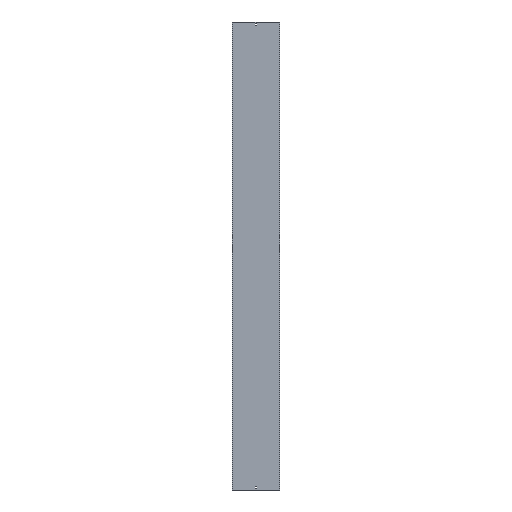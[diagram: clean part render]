
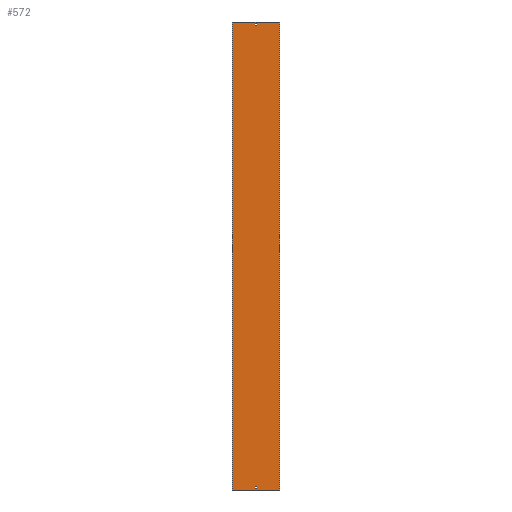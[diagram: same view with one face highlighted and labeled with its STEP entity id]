
A CAD part, front view. The second image highlights one B-rep face of the part: STEP entity #572.
In plain terms, the highlighted planar face has unit normal (0, -1, 0).
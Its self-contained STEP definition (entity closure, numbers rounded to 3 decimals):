
#1 = CARTESIAN_POINT ( 'NONE',  ( -150., -1.5, 1500. ) ) ;
#14 = VERTEX_POINT ( 'NONE', #323 ) ;
#15 = DIRECTION ( 'NONE',  ( -1., 0., 0. ) ) ;
#21 = EDGE_CURVE ( 'NONE', #504, #417, #67, .T. ) ;
#23 = ORIENTED_EDGE ( 'NONE', *, *, #320, .T. ) ;
#29 = CARTESIAN_POINT ( 'NONE',  ( -151.5, -1.5, 1479. ) ) ;
#34 = ORIENTED_EDGE ( 'NONE', *, *, #414, .F. ) ;
#44 = LINE ( 'NONE', #1, #475 ) ;
#54 = CARTESIAN_POINT ( 'NONE',  ( 150., -1.5, -1500. ) ) ;
#62 = VECTOR ( 'NONE', #15, 1000. ) ;
#67 = LINE ( 'NONE', #332, #153 ) ;
#68 = VERTEX_POINT ( 'NONE', #563 ) ;
#74 = VECTOR ( 'NONE', #339, 1000. ) ;
#79 = CARTESIAN_POINT ( 'NONE',  ( -150., -1.5, -1500. ) ) ;
#84 = VERTEX_POINT ( 'NONE', #247 ) ;
#87 = EDGE_CURVE ( 'NONE', #417, #233, #197, .T. ) ;
#90 = CARTESIAN_POINT ( 'NONE',  ( 3.25, -1.5, -1488. ) ) ;
#93 = LINE ( 'NONE', #230, #74 ) ;
#99 = CARTESIAN_POINT ( 'NONE',  ( -151.5, -1.5, 1500. ) ) ;
#100 = ORIENTED_EDGE ( 'NONE', *, *, #415, .T. ) ;
#104 = DIRECTION ( 'NONE',  ( 0., 0., -1. ) ) ;
#105 = AXIS2_PLACEMENT_3D ( 'NONE', #333, #381, #577 ) ;
#106 = EDGE_CURVE ( 'NONE', #68, #357, #433, .T. ) ;
#110 = EDGE_CURVE ( 'NONE', #434, #241, #338, .T. ) ;
#116 = VECTOR ( 'NONE', #104, 1000. ) ;
#120 = LINE ( 'NONE', #287, #499 ) ;
#132 = CARTESIAN_POINT ( 'NONE',  ( -151.5, -1.5, -1479. ) ) ;
#135 = VECTOR ( 'NONE', #556, 1000. ) ;
#137 = FACE_BOUND ( 'NONE', #182, .T. ) ;
#153 = VECTOR ( 'NONE', #250, 1000. ) ;
#156 = EDGE_LOOP ( 'NONE', ( #522, #23, #159, #100 ) ) ;
#159 = ORIENTED_EDGE ( 'NONE', *, *, #110, .T. ) ;
#173 = DIRECTION ( 'NONE',  ( 0., 0., 1. ) ) ;
#180 = ORIENTED_EDGE ( 'NONE', *, *, #21, .F. ) ;
#182 = EDGE_LOOP ( 'NONE', ( #34, #559, #421, #208 ) ) ;
#190 = DIRECTION ( 'NONE',  ( -1., 0., 0. ) ) ;
#196 = LINE ( 'NONE', #454, #135 ) ;
#197 = LINE ( 'NONE', #422, #62 ) ;
#208 = ORIENTED_EDGE ( 'NONE', *, *, #220, .F. ) ;
#216 = CARTESIAN_POINT ( 'NONE',  ( -3.25, -1.5, -1488. ) ) ;
#220 = EDGE_CURVE ( 'NONE', #232, #68, #432, .T. ) ;
#221 = FACE_OUTER_BOUND ( 'NONE', #508, .T. ) ;
#230 = CARTESIAN_POINT ( 'NONE',  ( -3.25, -1.5, 1500. ) ) ;
#231 = CARTESIAN_POINT ( 'NONE',  ( -151.5, -1.5, -1488. ) ) ;
#232 = VERTEX_POINT ( 'NONE', #480 ) ;
#233 = VERTEX_POINT ( 'NONE', #79 ) ;
#241 = VERTEX_POINT ( 'NONE', #524 ) ;
#247 = CARTESIAN_POINT ( 'NONE',  ( -3.25, -1.5, 1488. ) ) ;
#250 = DIRECTION ( 'NONE',  ( 0., 0., -1. ) ) ;
#254 = EDGE_CURVE ( 'NONE', #357, #84, #120, .T. ) ;
#271 = LINE ( 'NONE', #99, #462 ) ;
#287 = CARTESIAN_POINT ( 'NONE',  ( -151.5, -1.5, 1488. ) ) ;
#291 = CARTESIAN_POINT ( 'NONE',  ( 150., -1.5, 1500. ) ) ;
#296 = DIRECTION ( 'NONE',  ( 1., 0., 0. ) ) ;
#316 = ORIENTED_EDGE ( 'NONE', *, *, #459, .T. ) ;
#320 = EDGE_CURVE ( 'NONE', #550, #434, #93, .T. ) ;
#321 = VERTEX_POINT ( 'NONE', #90 ) ;
#323 = CARTESIAN_POINT ( 'NONE',  ( -150., -1.5, 1500. ) ) ;
#332 = CARTESIAN_POINT ( 'NONE',  ( 150., -1.5, 1500. ) ) ;
#333 = CARTESIAN_POINT ( 'NONE',  ( -151.5, -1.5, 1500. ) ) ;
#338 = LINE ( 'NONE', #132, #474 ) ;
#339 = DIRECTION ( 'NONE',  ( 0., 0., 1. ) ) ;
#349 = DIRECTION ( 'NONE',  ( -1., 0., 0. ) ) ;
#357 = VERTEX_POINT ( 'NONE', #553 ) ;
#361 = VECTOR ( 'NONE', #349, 1000. ) ;
#381 = DIRECTION ( 'NONE',  ( 0., -1., 0. ) ) ;
#382 = DIRECTION ( 'NONE',  ( 1., 0., 0. ) ) ;
#383 = PLANE ( 'NONE',  #105 ) ;
#386 = FACE_BOUND ( 'NONE', #156, .T. ) ;
#387 = VECTOR ( 'NONE', #382, 1000. ) ;
#402 = ORIENTED_EDGE ( 'NONE', *, *, #437, .T. ) ;
#414 = EDGE_CURVE ( 'NONE', #84, #232, #196, .T. ) ;
#415 = EDGE_CURVE ( 'NONE', #241, #321, #511, .T. ) ;
#417 = VERTEX_POINT ( 'NONE', #54 ) ;
#421 = ORIENTED_EDGE ( 'NONE', *, *, #106, .F. ) ;
#422 = CARTESIAN_POINT ( 'NONE',  ( -151.5, -1.5, -1500. ) ) ;
#432 = LINE ( 'NONE', #29, #387 ) ;
#433 = LINE ( 'NONE', #578, #551 ) ;
#434 = VERTEX_POINT ( 'NONE', #560 ) ;
#437 = EDGE_CURVE ( 'NONE', #14, #233, #44, .T. ) ;
#452 = LINE ( 'NONE', #231, #361 ) ;
#454 = CARTESIAN_POINT ( 'NONE',  ( -3.25, -1.5, 1500. ) ) ;
#458 = CARTESIAN_POINT ( 'NONE',  ( 3.25, -1.5, 1500. ) ) ;
#459 = EDGE_CURVE ( 'NONE', #504, #14, #271, .T. ) ;
#462 = VECTOR ( 'NONE', #190, 1000. ) ;
#469 = DIRECTION ( 'NONE',  ( -1., 0., 0. ) ) ;
#472 = EDGE_CURVE ( 'NONE', #321, #550, #452, .T. ) ;
#474 = VECTOR ( 'NONE', #296, 1000. ) ;
#475 = VECTOR ( 'NONE', #590, 1000. ) ;
#480 = CARTESIAN_POINT ( 'NONE',  ( -3.25, -1.5, 1479. ) ) ;
#499 = VECTOR ( 'NONE', #469, 1000. ) ;
#504 = VERTEX_POINT ( 'NONE', #291 ) ;
#508 = EDGE_LOOP ( 'NONE', ( #510, #180, #316, #402 ) ) ;
#510 = ORIENTED_EDGE ( 'NONE', *, *, #87, .F. ) ;
#511 = LINE ( 'NONE', #458, #116 ) ;
#522 = ORIENTED_EDGE ( 'NONE', *, *, #472, .T. ) ;
#524 = CARTESIAN_POINT ( 'NONE',  ( 3.25, -1.5, -1479. ) ) ;
#550 = VERTEX_POINT ( 'NONE', #216 ) ;
#551 = VECTOR ( 'NONE', #173, 1000. ) ;
#553 = CARTESIAN_POINT ( 'NONE',  ( 3.25, -1.5, 1488. ) ) ;
#556 = DIRECTION ( 'NONE',  ( 0., 0., -1. ) ) ;
#559 = ORIENTED_EDGE ( 'NONE', *, *, #254, .F. ) ;
#560 = CARTESIAN_POINT ( 'NONE',  ( -3.25, -1.5, -1479. ) ) ;
#563 = CARTESIAN_POINT ( 'NONE',  ( 3.25, -1.5, 1479. ) ) ;
#572 = ADVANCED_FACE ( 'NONE', ( #137, #221, #386 ), #383, .T. ) ;
#577 = DIRECTION ( 'NONE',  ( 0., 0., -1. ) ) ;
#578 = CARTESIAN_POINT ( 'NONE',  ( 3.25, -1.5, 1500. ) ) ;
#590 = DIRECTION ( 'NONE',  ( 0., 0., -1. ) ) ;
